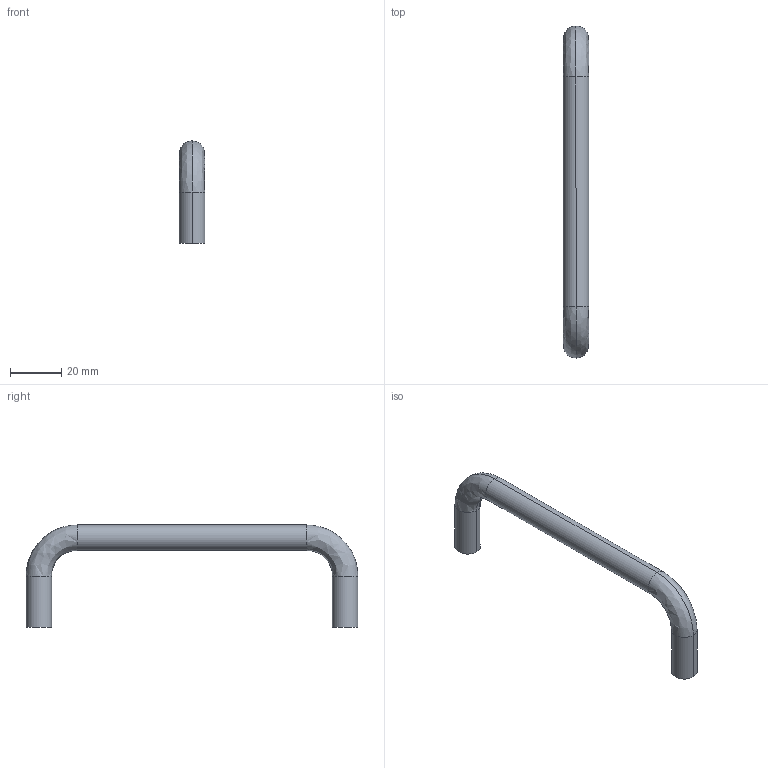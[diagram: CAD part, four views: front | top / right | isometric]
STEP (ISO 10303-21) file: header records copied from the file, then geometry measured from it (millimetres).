
FILE_DESCRIPTION (( 'STEP AP203' ), '1' );
FILE_NAME ('10241-01-0000-00.STEP', '2018-04-10T10:22:15', ( '' ), ( '' ), 'SwSTEP 2.0', 'SolidWorks 2017', '' );
FILE_SCHEMA (( 'CONFIG_CONTROL_DESIGN' ));
Length unit declared in the file: millimetre
Products named in the file (1): 10241-01-0000-00
Bounding box: 10 x 130 x 40 mm (x, y, z)
Volume: 13911.3 mm3; surface area: 5721.6 mm2
Topology: 1 solids, 1 shells, 12 faces, 22 edges, 12 vertices
Faces by surface type: cylinder 6, bspline 4, plane 2
Entity records: 419 total; most frequent: CARTESIAN_POINT 107, DIRECTION 56, ORIENTED_EDGE 44, AXIS2_PLACEMENT_3D 25, EDGE_CURVE 22, CIRCLE 16, EDGE_LOOP 12, ADVANCED_FACE 12
